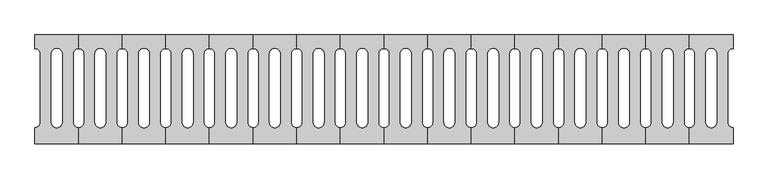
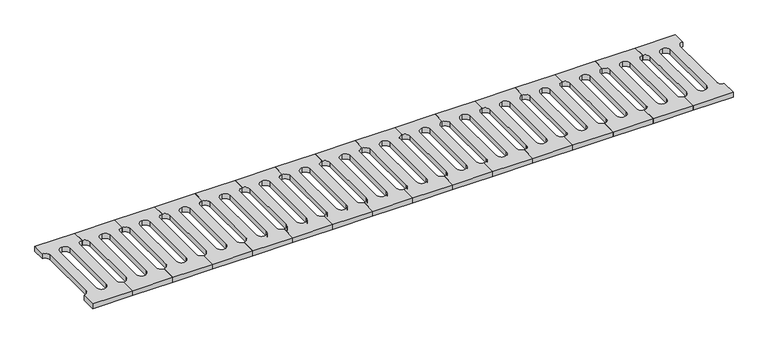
"""IFC4 building model written with IfcOpenShell, lengths in millimetres: proxy geometry, 排水沟盖板 : 排水沟盖板."""

import ifcopenshell
import ifcopenshell.guid

model = None  # the IFC model being written
_history = None  # IfcOwnerHistory: only IFC2X3 demands one
_inside = {}  # id of a spatial element -> (the spatial element, [elements in it])
_under = {}  # id of a project, library or spatial element -> (it, [spatial elements below it])
_declared = {}  # id of a project -> (the project, [libraries it declares])
_typed = {}  # id of a type object -> (the type object, [elements of that type])
_made_of = {}  # id of a material, layer set ... -> (it, [elements and type objects made of it])


def new_model(schema):
    """Start an empty IFC model of exactly this schema.

    Asked for "IFC4X3", IfcOpenShell would pick the latest addendum, in which some entities
    have other attributes; the version numbers below select the first issue.
    IFC2X3 requires an IfcOwnerHistory on every rooted entity: one is made here for all.
    """
    global model, _history
    if schema == "IFC4X3":
        model = ifcopenshell.file(schema_version=(4, 3, 0, 0))
    else:
        model = ifcopenshell.file(schema=schema)
    _inside.clear()
    _under.clear()
    _declared.clear()
    _typed.clear()
    _made_of.clear()
    _history = None
    if model.schema == "IFC2X3":
        org = make("IfcOrganization", Name="unknown")
        user = make(
            "IfcPersonAndOrganization",
            ThePerson=make("IfcPerson", FamilyName="unknown"),
            TheOrganization=org,
        )
        app = make(
            "IfcApplication",
            ApplicationDeveloper=org,
            Version="unknown",
            ApplicationFullName="unknown",
            ApplicationIdentifier="unknown",
        )
        _history = make(
            "IfcOwnerHistory",
            OwningUser=user,
            OwningApplication=app,
            ChangeAction="ADDED",
            CreationDate=0,
        )
    return model


def make(cls, **values):
    """One entity of the class cls with the attributes given. An attribute that is None is left unset."""
    return model.create_entity(
        cls, **{name: value for name, value in values.items() if value is not None}
    )


def rooted(cls, **values):
    """An entity with a GlobalId (a new one), such as an element, a storey or a relation."""
    return make(cls, GlobalId=ifcopenshell.guid.new(), OwnerHistory=_history, **values)


def si_unit(unit_type, name, prefix=None):
    """IfcSIUnit, for example si_unit("LENGTHUNIT", "METRE", prefix="MILLI")."""
    return make("IfcSIUnit", UnitType=unit_type, Prefix=prefix, Name=name)


def assignment(units):
    """IfcUnitAssignment: the units of a project."""
    return None if units is None else make("IfcUnitAssignment", Units=units)


def point(xyz):
    """IfcCartesianPoint."""
    return None if xyz is None else make("IfcCartesianPoint", Coordinates=xyz)


def direction(xyz):
    """IfcDirection."""
    return None if xyz is None else make("IfcDirection", DirectionRatios=xyz)


def frame(location, z_axis=None, x_axis=None):
    """IfcAxis2Placement3D, a coordinate frame: its origin and axes. An axis left out is left unset."""
    return make(
        "IfcAxis2Placement3D",
        Location=point(location),
        Axis=direction(z_axis),
        RefDirection=direction(x_axis),
    )


def frame_2d(location, x_axis=None):
    """IfcAxis2Placement2D, a coordinate frame in the plane: its origin and x axis."""
    return make(
        "IfcAxis2Placement2D", Location=point(location), RefDirection=direction(x_axis)
    )


def origin():
    """The frame at (0, 0, 0) with its axes left unset."""
    return frame((0.0, 0.0, 0.0))


def place(relative_to, where):
    """IfcLocalPlacement: puts the frame where relative to a parent placement (None: the world)."""
    return make(
        "IfcLocalPlacement", PlacementRelTo=relative_to, RelativePlacement=where
    )


def context(
    kind, dimensions, precision=None, world=None, true_north=None, identifier=None
):
    """IfcGeometricRepresentationContext, for example the 3D "Model" context."""
    return make(
        "IfcGeometricRepresentationContext",
        ContextIdentifier=identifier,
        ContextType=kind,
        CoordinateSpaceDimension=dimensions,
        Precision=precision,
        WorldCoordinateSystem=world,
        TrueNorth=true_north,
    )


def project(units=None, contexts=None):
    """IfcProject with its units and contexts."""
    return rooted(
        "IfcProject",
        Name="project",
        RepresentationContexts=contexts,
        UnitsInContext=assignment(units),
    )


def spatial(cls, under=None, at=None, **own):
    """A site, building, storey or space (cls), placed at a placement, below another one or the project."""
    s = rooted(cls, ObjectPlacement=at, **own)
    if under is not None:
        _under.setdefault(under.id(), (under, []))[1].append(s)
    return s


def polyline(points):
    """IfcPolyline through the points."""
    return make("IfcPolyline", Points=[point(p) for p in points])


def circle_curve(where, radius):
    """IfcCircle in the frame where."""
    return make("IfcCircle", Position=where, Radius=radius)


def trimmed(basis, trim1, trim2, sense, master):
    """IfcTrimmedCurve: the piece of a basis curve between two trims."""
    return make(
        "IfcTrimmedCurve",
        BasisCurve=basis,
        Trim1=trim1,
        Trim2=trim2,
        SenseAgreement=sense,
        MasterRepresentation=master,
    )


def segment(curve, same_sense, transition):
    """IfcCompositeCurveSegment."""
    return make(
        "IfcCompositeCurveSegment",
        Transition=transition,
        SameSense=same_sense,
        ParentCurve=curve,
    )


def composite_curve(segments, self_intersect=None):
    """IfcCompositeCurve: segments joined end to end."""
    return make("IfcCompositeCurve", Segments=segments, SelfIntersect=self_intersect)


def outline(outer, holes=None, kind="AREA"):
    """IfcArbitraryClosedProfileDef: a profile drawn as a closed curve; with holes, ...WithVoids."""
    if holes is None:
        return make("IfcArbitraryClosedProfileDef", ProfileType=kind, OuterCurve=outer)
    return make(
        "IfcArbitraryProfileDefWithVoids",
        ProfileType=kind,
        OuterCurve=outer,
        InnerCurves=holes,
    )


def extrude(swept, where, along, depth):
    """IfcExtrudedAreaSolid: the profile swept, set in the frame where, extruded along a direction by depth."""
    return make(
        "IfcExtrudedAreaSolid",
        SweptArea=swept,
        Position=where,
        ExtrudedDirection=direction(along),
        Depth=depth,
    )


def shape(context_of_items, identifier, shape_type, items):
    """IfcShapeRepresentation: the items that make up one representation, for example the "Body"."""
    return make(
        "IfcShapeRepresentation",
        ContextOfItems=context_of_items,
        RepresentationIdentifier=identifier,
        RepresentationType=shape_type,
        Items=items,
    )


def source(mapping_origin, context_of_items, identifier, shape_type, items):
    """IfcRepresentationMap: a shape defined once, which mapped items show again and again."""
    return make(
        "IfcRepresentationMap",
        MappingOrigin=mapping_origin,
        MappedRepresentation=shape(context_of_items, identifier, shape_type, items),
    )


def transform(
    local_origin,
    x_axis=None,
    y_axis=None,
    z_axis=None,
    scale=None,
    scale2=None,
    scale3=None,
    uniform=True,
):
    """IfcCartesianTransformationOperator3D, or its non-uniform kind. x_axis, y_axis, z_axis: its Axis1, 2, 3."""
    if uniform:
        return make(
            "IfcCartesianTransformationOperator3D",
            Axis1=direction(x_axis),
            Axis2=direction(y_axis),
            LocalOrigin=point(local_origin),
            Scale=scale,
            Axis3=direction(z_axis),
        )
    return make(
        "IfcCartesianTransformationOperator3DnonUniform",
        Axis1=direction(x_axis),
        Axis2=direction(y_axis),
        LocalOrigin=point(local_origin),
        Scale=scale,
        Axis3=direction(z_axis),
        Scale2=scale2,
        Scale3=scale3,
    )


def mapped(mapping_source, mapping_target):
    """IfcMappedItem: shows the shape of a source again, moved by a transform."""
    return make(
        "IfcMappedItem", MappingSource=mapping_source, MappingTarget=mapping_target
    )


def made_of(thing, what):
    """Note that an element or type object is made of a material, layer set ...; save() writes the relation."""
    if what is not None:
        _made_of.setdefault(what.id(), (what, []))[1].append(thing)
    return thing


def element(
    cls,
    number,
    at=None,
    inside=None,
    cuts=None,
    type_object=None,
    material=None,
    context=None,
    identifier="Body",
    shape_type=None,
    held_by="IfcProductDefinitionShape",
    body=None,
    shapes=None,
    **own,
):
    """One element of the class cls, such as IfcWall. Its Tag is "e" and its number.

    at: its placement. inside: the storey or other place that contains it. cuts: it is an
    opening in that element (IfcRelVoidsElement). A single representation is given by context,
    identifier, shape_type and body (its items); several are given by shapes. held_by: the class
    of the entity that holds the representations. save() writes the other relations.
    """
    e = rooted(cls, Tag="e%d" % number, ObjectPlacement=at, **own)
    if body is not None:
        shapes = [shape(context, identifier, shape_type, body)]
    if shapes is not None:
        e.Representation = make(held_by, Representations=shapes)
    if inside is not None:
        _inside.setdefault(inside.id(), (inside, []))[1].append(e)
    if cuts is not None:
        rooted(
            "IfcRelVoidsElement", RelatingBuildingElement=cuts, RelatedOpeningElement=e
        )
    if type_object is not None:
        _typed.setdefault(type_object.id(), (type_object, []))[1].append(e)
    return made_of(e, material)


def aggregate(whole, parts):
    """IfcRelAggregates: a whole, such as a stair, and the parts it consists of."""
    return rooted("IfcRelAggregates", RelatingObject=whole, RelatedObjects=parts)


def save(model, path):
    """Write the relations noted so far, then the file.

    IfcRelAggregates (storeys below a building ...), IfcRelContainedInSpatialStructure (elements
    in a storey), IfcRelDefinesByType, IfcRelAssociatesMaterial and IfcRelDeclares: one each for
    every whole, place, type object, material and project.
    """
    for whole, parts in _under.values():
        aggregate(whole, parts)
    for where, things in _inside.values():
        rooted(
            "IfcRelContainedInSpatialStructure",
            RelatedElements=things,
            RelatingStructure=where,
        )
    for kind, things in _typed.values():
        rooted("IfcRelDefinesByType", RelatedObjects=things, RelatingType=kind)
    for what, things in _made_of.values():
        rooted("IfcRelAssociatesMaterial", RelatedObjects=things, RelatingMaterial=what)
    for by, libraries in _declared.values():
        rooted("IfcRelDeclares", RelatingContext=by, RelatedDefinitions=libraries)
    model.write(path)


def generic_models_08f2e09a(model_context):
    return source(origin(), model_context, "Body", "SweptSolid", [
        extrude(outline(composite_curve([segment(polyline([(2560.0, -200.0), (2400.0, -200.0), (2400.0, -140.0)]), True, "CONTINUOUS"), segment(trimmed(circle_curve(frame_2d((2400.0, -120.0)), 20.0), [point((2400.0, -140.0))], [point((2420.0, -120.0))], True, "CARTESIAN"), True, "CONTINUOUS"), segment(polyline([(2420.0, -120.0), (2420.0, 130.0)]), True, "CONTINUOUS"), segment(trimmed(circle_curve(frame_2d((2400.0, 130.0)), 20.0), [point((2420.0, 130.0))], [point((2400.0, 150.0))], True, "CARTESIAN"), True, "CONTINUOUS"), segment(polyline([(2400.0, 150.0), (2400.0, 200.0), (2560.0, 200.0), (2560.0, 150.0)]), True, "CONTINUOUS"), segment(trimmed(circle_curve(frame_2d((2560.0, 130.0)), 20.0), [point((2560.0, 150.0))], [point((2540.0, 130.0))], True, "CARTESIAN"), True, "CONTINUOUS"), segment(polyline([(2540.0, 130.0), (2540.0, -120.0)]), True, "CONTINUOUS"), segment(trimmed(circle_curve(frame_2d((2560.0, -120.0)), 20.0), [point((2540.0, -120.0))], [point((2560.0, -140.0))], True, "CARTESIAN"), True, "CONTINUOUS"), segment(polyline([(2560.0, -140.0), (2560.0, -200.0)]), True, "CONTINUOUS")], self_intersect=False), holes=[composite_curve([segment(polyline([(2460.0, 130.0), (2460.0, -120.0)]), True, "CONTINUOUS"), segment(trimmed(circle_curve(frame_2d((2480.0, -120.0)), 20.0), [point((2460.0, -120.0))], [point((2480.0, -140.0))], True, "CARTESIAN"), True, "CONTINUOUS"), segment(trimmed(circle_curve(frame_2d((2480.0, -120.0)), 20.0), [point((2480.0, -140.0))], [point((2500.0, -120.0))], True, "CARTESIAN"), True, "CONTINUOUS"), segment(polyline([(2500.0, -120.0), (2500.0, 130.0)]), True, "CONTINUOUS"), segment(trimmed(circle_curve(frame_2d((2480.0, 130.0)), 20.0), [point((2500.0, 130.0))], [point((2480.0, 150.0))], True, "CARTESIAN"), True, "CONTINUOUS"), segment(trimmed(circle_curve(frame_2d((2480.0, 130.0)), 20.0), [point((2480.0, 150.0))], [point((2460.0, 130.0))], True, "CARTESIAN"), True, "CONTINUOUS")], self_intersect=False)]), frame((0.0, 0.0, -20.0), z_axis=(0.0, 0.0, 1.0), x_axis=(1.0, 0.0, 0.0)), (0.0, 0.0, 1.0), 20.0),
        extrude(outline(composite_curve([segment(polyline([(2400.0, -200.0), (2240.0, -200.0), (2240.0, -140.0)]), True, "CONTINUOUS"), segment(trimmed(circle_curve(frame_2d((2240.0, -120.0)), 20.0), [point((2240.0, -140.0))], [point((2260.0, -120.0))], True, "CARTESIAN"), True, "CONTINUOUS"), segment(polyline([(2260.0, -120.0), (2260.0, 130.0)]), True, "CONTINUOUS"), segment(trimmed(circle_curve(frame_2d((2240.0, 130.0)), 20.0), [point((2260.0, 130.0))], [point((2240.0, 150.0))], True, "CARTESIAN"), True, "CONTINUOUS"), segment(polyline([(2240.0, 150.0), (2240.0, 200.0), (2400.0, 200.0), (2400.0, 150.0)]), True, "CONTINUOUS"), segment(trimmed(circle_curve(frame_2d((2400.0, 130.0)), 20.0), [point((2400.0, 150.0))], [point((2380.0, 130.0))], True, "CARTESIAN"), True, "CONTINUOUS"), segment(polyline([(2380.0, 130.0), (2380.0, -120.0)]), True, "CONTINUOUS"), segment(trimmed(circle_curve(frame_2d((2400.0, -120.0)), 20.0), [point((2380.0, -120.0))], [point((2400.0, -140.0))], True, "CARTESIAN"), True, "CONTINUOUS"), segment(polyline([(2400.0, -140.0), (2400.0, -200.0)]), True, "CONTINUOUS")], self_intersect=False), holes=[composite_curve([segment(polyline([(2300.0, 130.0), (2300.0, -120.0)]), True, "CONTINUOUS"), segment(trimmed(circle_curve(frame_2d((2320.0, -120.0)), 20.0), [point((2300.0, -120.0))], [point((2320.0, -140.0))], True, "CARTESIAN"), True, "CONTINUOUS"), segment(trimmed(circle_curve(frame_2d((2320.0, -120.0)), 20.0), [point((2320.0, -140.0))], [point((2340.0, -120.0))], True, "CARTESIAN"), True, "CONTINUOUS"), segment(polyline([(2340.0, -120.0), (2340.0, 130.0)]), True, "CONTINUOUS"), segment(trimmed(circle_curve(frame_2d((2320.0, 130.0)), 20.0), [point((2340.0, 130.0))], [point((2320.0, 150.0))], True, "CARTESIAN"), True, "CONTINUOUS"), segment(trimmed(circle_curve(frame_2d((2320.0, 130.0)), 20.0), [point((2320.0, 150.0))], [point((2300.0, 130.0))], True, "CARTESIAN"), True, "CONTINUOUS")], self_intersect=False)]), frame((0.0, 0.0, -20.0), z_axis=(0.0, 0.0, 1.0), x_axis=(1.0, 0.0, 0.0)), (0.0, 0.0, 1.0), 20.0),
        extrude(outline(composite_curve([segment(polyline([(2240.0, -200.0), (2080.0, -200.0), (2080.0, -140.0)]), True, "CONTINUOUS"), segment(trimmed(circle_curve(frame_2d((2080.0, -120.0)), 20.0), [point((2080.0, -140.0))], [point((2100.0, -120.0))], True, "CARTESIAN"), True, "CONTINUOUS"), segment(polyline([(2100.0, -120.0), (2100.0, 130.0)]), True, "CONTINUOUS"), segment(trimmed(circle_curve(frame_2d((2080.0, 130.0)), 20.0), [point((2100.0, 130.0))], [point((2080.0, 150.0))], True, "CARTESIAN"), True, "CONTINUOUS"), segment(polyline([(2080.0, 150.0), (2080.0, 200.0), (2240.0, 200.0), (2240.0, 150.0)]), True, "CONTINUOUS"), segment(trimmed(circle_curve(frame_2d((2240.0, 130.0)), 20.0), [point((2240.0, 150.0))], [point((2220.0, 130.0))], True, "CARTESIAN"), True, "CONTINUOUS"), segment(polyline([(2220.0, 130.0), (2220.0, -120.0)]), True, "CONTINUOUS"), segment(trimmed(circle_curve(frame_2d((2240.0, -120.0)), 20.0), [point((2220.0, -120.0))], [point((2240.0, -140.0))], True, "CARTESIAN"), True, "CONTINUOUS"), segment(polyline([(2240.0, -140.0), (2240.0, -200.0)]), True, "CONTINUOUS")], self_intersect=False), holes=[composite_curve([segment(polyline([(2140.0, 130.0), (2140.0, -120.0)]), True, "CONTINUOUS"), segment(trimmed(circle_curve(frame_2d((2160.0, -120.0)), 20.0), [point((2140.0, -120.0))], [point((2160.0, -140.0))], True, "CARTESIAN"), True, "CONTINUOUS"), segment(trimmed(circle_curve(frame_2d((2160.0, -120.0)), 20.0), [point((2160.0, -140.0))], [point((2180.0, -120.0))], True, "CARTESIAN"), True, "CONTINUOUS"), segment(polyline([(2180.0, -120.0), (2180.0, 130.0)]), True, "CONTINUOUS"), segment(trimmed(circle_curve(frame_2d((2160.0, 130.0)), 20.0), [point((2180.0, 130.0))], [point((2160.0, 150.0))], True, "CARTESIAN"), True, "CONTINUOUS"), segment(trimmed(circle_curve(frame_2d((2160.0, 130.0)), 20.0), [point((2160.0, 150.0))], [point((2140.0, 130.0))], True, "CARTESIAN"), True, "CONTINUOUS")], self_intersect=False)]), frame((0.0, 0.0, -20.0), z_axis=(0.0, 0.0, 1.0), x_axis=(1.0, 0.0, 0.0)), (0.0, 0.0, 1.0), 20.0),
        extrude(outline(composite_curve([segment(polyline([(2080.0, -200.0), (1920.0, -200.0), (1920.0, -140.0)]), True, "CONTINUOUS"), segment(trimmed(circle_curve(frame_2d((1920.0, -120.0)), 20.0), [point((1920.0, -140.0))], [point((1940.0, -120.0))], True, "CARTESIAN"), True, "CONTINUOUS"), segment(polyline([(1940.0, -120.0), (1940.0, 130.0)]), True, "CONTINUOUS"), segment(trimmed(circle_curve(frame_2d((1920.0, 130.0)), 20.0), [point((1940.0, 130.0))], [point((1920.0, 150.0))], True, "CARTESIAN"), True, "CONTINUOUS"), segment(polyline([(1920.0, 150.0), (1920.0, 200.0), (2080.0, 200.0), (2080.0, 150.0)]), True, "CONTINUOUS"), segment(trimmed(circle_curve(frame_2d((2080.0, 130.0)), 20.0), [point((2080.0, 150.0))], [point((2060.0, 130.0))], True, "CARTESIAN"), True, "CONTINUOUS"), segment(polyline([(2060.0, 130.0), (2060.0, -120.0)]), True, "CONTINUOUS"), segment(trimmed(circle_curve(frame_2d((2080.0, -120.0)), 20.0), [point((2060.0, -120.0))], [point((2080.0, -140.0))], True, "CARTESIAN"), True, "CONTINUOUS"), segment(polyline([(2080.0, -140.0), (2080.0, -200.0)]), True, "CONTINUOUS")], self_intersect=False), holes=[composite_curve([segment(polyline([(1980.0, 130.0), (1980.0, -120.0)]), True, "CONTINUOUS"), segment(trimmed(circle_curve(frame_2d((2000.0, -120.0)), 20.0), [point((1980.0, -120.0))], [point((2000.0, -140.0))], True, "CARTESIAN"), True, "CONTINUOUS"), segment(trimmed(circle_curve(frame_2d((2000.0, -120.0)), 20.0), [point((2000.0, -140.0))], [point((2020.0, -120.0))], True, "CARTESIAN"), True, "CONTINUOUS"), segment(polyline([(2020.0, -120.0), (2020.0, 130.0)]), True, "CONTINUOUS"), segment(trimmed(circle_curve(frame_2d((2000.0, 130.0)), 20.0), [point((2020.0, 130.0))], [point((2000.0, 150.0))], True, "CARTESIAN"), True, "CONTINUOUS"), segment(trimmed(circle_curve(frame_2d((2000.0, 130.0)), 20.0), [point((2000.0, 150.0))], [point((1980.0, 130.0))], True, "CARTESIAN"), True, "CONTINUOUS")], self_intersect=False)]), frame((0.0, 0.0, -20.0), z_axis=(0.0, 0.0, 1.0), x_axis=(1.0, 0.0, 0.0)), (0.0, 0.0, 1.0), 20.0),
        extrude(outline(composite_curve([segment(polyline([(1920.0, -200.0), (1760.0, -200.0), (1760.0, -140.0)]), True, "CONTINUOUS"), segment(trimmed(circle_curve(frame_2d((1760.0, -120.0)), 20.0), [point((1760.0, -140.0))], [point((1780.0, -120.0))], True, "CARTESIAN"), True, "CONTINUOUS"), segment(polyline([(1780.0, -120.0), (1780.0, 130.0)]), True, "CONTINUOUS"), segment(trimmed(circle_curve(frame_2d((1760.0, 130.0)), 20.0), [point((1780.0, 130.0))], [point((1760.0, 150.0))], True, "CARTESIAN"), True, "CONTINUOUS"), segment(polyline([(1760.0, 150.0), (1760.0, 200.0), (1920.0, 200.0), (1920.0, 150.0)]), True, "CONTINUOUS"), segment(trimmed(circle_curve(frame_2d((1920.0, 130.0)), 20.0), [point((1920.0, 150.0))], [point((1900.0, 130.0))], True, "CARTESIAN"), True, "CONTINUOUS"), segment(polyline([(1900.0, 130.0), (1900.0, -120.0)]), True, "CONTINUOUS"), segment(trimmed(circle_curve(frame_2d((1920.0, -120.0)), 20.0), [point((1900.0, -120.0))], [point((1920.0, -140.0))], True, "CARTESIAN"), True, "CONTINUOUS"), segment(polyline([(1920.0, -140.0), (1920.0, -200.0)]), True, "CONTINUOUS")], self_intersect=False), holes=[composite_curve([segment(polyline([(1820.0, 130.0), (1820.0, -120.0)]), True, "CONTINUOUS"), segment(trimmed(circle_curve(frame_2d((1840.0, -120.0)), 20.0), [point((1820.0, -120.0))], [point((1840.0, -140.0))], True, "CARTESIAN"), True, "CONTINUOUS"), segment(trimmed(circle_curve(frame_2d((1840.0, -120.0)), 20.0), [point((1840.0, -140.0))], [point((1860.0, -120.0))], True, "CARTESIAN"), True, "CONTINUOUS"), segment(polyline([(1860.0, -120.0), (1860.0, 130.0)]), True, "CONTINUOUS"), segment(trimmed(circle_curve(frame_2d((1840.0, 130.0)), 20.0), [point((1860.0, 130.0))], [point((1840.0, 150.0))], True, "CARTESIAN"), True, "CONTINUOUS"), segment(trimmed(circle_curve(frame_2d((1840.0, 130.0)), 20.0), [point((1840.0, 150.0))], [point((1820.0, 130.0))], True, "CARTESIAN"), True, "CONTINUOUS")], self_intersect=False)]), frame((0.0, 0.0, -20.0), z_axis=(0.0, 0.0, 1.0), x_axis=(1.0, 0.0, 0.0)), (0.0, 0.0, 1.0), 20.0),
        extrude(outline(composite_curve([segment(polyline([(1760.0, -200.0), (1600.0, -200.0), (1600.0, -140.0)]), True, "CONTINUOUS"), segment(trimmed(circle_curve(frame_2d((1600.0, -120.0)), 20.0), [point((1600.0, -140.0))], [point((1620.0, -120.0))], True, "CARTESIAN"), True, "CONTINUOUS"), segment(polyline([(1620.0, -120.0), (1620.0, 130.0)]), True, "CONTINUOUS"), segment(trimmed(circle_curve(frame_2d((1600.0, 130.0)), 20.0), [point((1620.0, 130.0))], [point((1600.0, 150.0))], True, "CARTESIAN"), True, "CONTINUOUS"), segment(polyline([(1600.0, 150.0), (1600.0, 200.0), (1760.0, 200.0), (1760.0, 150.0)]), True, "CONTINUOUS"), segment(trimmed(circle_curve(frame_2d((1760.0, 130.0)), 20.0), [point((1760.0, 150.0))], [point((1740.0, 130.0))], True, "CARTESIAN"), True, "CONTINUOUS"), segment(polyline([(1740.0, 130.0), (1740.0, -120.0)]), True, "CONTINUOUS"), segment(trimmed(circle_curve(frame_2d((1760.0, -120.0)), 20.0), [point((1740.0, -120.0))], [point((1760.0, -140.0))], True, "CARTESIAN"), True, "CONTINUOUS"), segment(polyline([(1760.0, -140.0), (1760.0, -200.0)]), True, "CONTINUOUS")], self_intersect=False), holes=[composite_curve([segment(polyline([(1660.0, 130.0), (1660.0, -120.0)]), True, "CONTINUOUS"), segment(trimmed(circle_curve(frame_2d((1680.0, -120.0)), 20.0), [point((1660.0, -120.0))], [point((1680.0, -140.0))], True, "CARTESIAN"), True, "CONTINUOUS"), segment(trimmed(circle_curve(frame_2d((1680.0, -120.0)), 20.0), [point((1680.0, -140.0))], [point((1700.0, -120.0))], True, "CARTESIAN"), True, "CONTINUOUS"), segment(polyline([(1700.0, -120.0), (1700.0, 130.0)]), True, "CONTINUOUS"), segment(trimmed(circle_curve(frame_2d((1680.0, 130.0)), 20.0), [point((1700.0, 130.0))], [point((1680.0, 150.0))], True, "CARTESIAN"), True, "CONTINUOUS"), segment(trimmed(circle_curve(frame_2d((1680.0, 130.0)), 20.0), [point((1680.0, 150.0))], [point((1660.0, 130.0))], True, "CARTESIAN"), True, "CONTINUOUS")], self_intersect=False)]), frame((0.0, 0.0, -20.0), z_axis=(0.0, 0.0, 1.0), x_axis=(1.0, 0.0, 0.0)), (0.0, 0.0, 1.0), 20.0),
        extrude(outline(composite_curve([segment(polyline([(1600.0, -200.0), (1440.0, -200.0), (1440.0, -140.0)]), True, "CONTINUOUS"), segment(trimmed(circle_curve(frame_2d((1440.0, -120.0)), 20.0), [point((1440.0, -140.0))], [point((1460.0, -120.0))], True, "CARTESIAN"), True, "CONTINUOUS"), segment(polyline([(1460.0, -120.0), (1460.0, 130.0)]), True, "CONTINUOUS"), segment(trimmed(circle_curve(frame_2d((1440.0, 130.0)), 20.0), [point((1460.0, 130.0))], [point((1440.0, 150.0))], True, "CARTESIAN"), True, "CONTINUOUS"), segment(polyline([(1440.0, 150.0), (1440.0, 200.0), (1600.0, 200.0), (1600.0, 150.0)]), True, "CONTINUOUS"), segment(trimmed(circle_curve(frame_2d((1600.0, 130.0)), 20.0), [point((1600.0, 150.0))], [point((1580.0, 130.0))], True, "CARTESIAN"), True, "CONTINUOUS"), segment(polyline([(1580.0, 130.0), (1580.0, -120.0)]), True, "CONTINUOUS"), segment(trimmed(circle_curve(frame_2d((1600.0, -120.0)), 20.0), [point((1580.0, -120.0))], [point((1600.0, -140.0))], True, "CARTESIAN"), True, "CONTINUOUS"), segment(polyline([(1600.0, -140.0), (1600.0, -200.0)]), True, "CONTINUOUS")], self_intersect=False), holes=[composite_curve([segment(polyline([(1500.0, 130.0), (1500.0, -120.0)]), True, "CONTINUOUS"), segment(trimmed(circle_curve(frame_2d((1520.0, -120.0)), 20.0), [point((1500.0, -120.0))], [point((1520.0, -140.0))], True, "CARTESIAN"), True, "CONTINUOUS"), segment(trimmed(circle_curve(frame_2d((1520.0, -120.0)), 20.0), [point((1520.0, -140.0))], [point((1540.0, -120.0))], True, "CARTESIAN"), True, "CONTINUOUS"), segment(polyline([(1540.0, -120.0), (1540.0, 130.0)]), True, "CONTINUOUS"), segment(trimmed(circle_curve(frame_2d((1520.0, 130.0)), 20.0), [point((1540.0, 130.0))], [point((1520.0, 150.0))], True, "CARTESIAN"), True, "CONTINUOUS"), segment(trimmed(circle_curve(frame_2d((1520.0, 130.0)), 20.0), [point((1520.0, 150.0))], [point((1500.0, 130.0))], True, "CARTESIAN"), True, "CONTINUOUS")], self_intersect=False)]), frame((0.0, 0.0, -20.0), z_axis=(0.0, 0.0, 1.0), x_axis=(1.0, 0.0, 0.0)), (0.0, 0.0, 1.0), 20.0),
        extrude(outline(composite_curve([segment(polyline([(1440.0, -200.0), (1280.0, -200.0), (1280.0, -140.0)]), True, "CONTINUOUS"), segment(trimmed(circle_curve(frame_2d((1280.0, -120.0)), 20.0), [point((1280.0, -140.0))], [point((1300.0, -120.0))], True, "CARTESIAN"), True, "CONTINUOUS"), segment(polyline([(1300.0, -120.0), (1300.0, 130.0)]), True, "CONTINUOUS"), segment(trimmed(circle_curve(frame_2d((1280.0, 130.0)), 20.0), [point((1300.0, 130.0))], [point((1280.0, 150.0))], True, "CARTESIAN"), True, "CONTINUOUS"), segment(polyline([(1280.0, 150.0), (1280.0, 200.0), (1440.0, 200.0), (1440.0, 150.0)]), True, "CONTINUOUS"), segment(trimmed(circle_curve(frame_2d((1440.0, 130.0)), 20.0), [point((1440.0, 150.0))], [point((1420.0, 130.0))], True, "CARTESIAN"), True, "CONTINUOUS"), segment(polyline([(1420.0, 130.0), (1420.0, -120.0)]), True, "CONTINUOUS"), segment(trimmed(circle_curve(frame_2d((1440.0, -120.0)), 20.0), [point((1420.0, -120.0))], [point((1440.0, -140.0))], True, "CARTESIAN"), True, "CONTINUOUS"), segment(polyline([(1440.0, -140.0), (1440.0, -200.0)]), True, "CONTINUOUS")], self_intersect=False), holes=[composite_curve([segment(polyline([(1340.0, 130.0), (1340.0, -120.0)]), True, "CONTINUOUS"), segment(trimmed(circle_curve(frame_2d((1360.0, -120.0)), 20.0), [point((1340.0, -120.0))], [point((1360.0, -140.0))], True, "CARTESIAN"), True, "CONTINUOUS"), segment(trimmed(circle_curve(frame_2d((1360.0, -120.0)), 20.0), [point((1360.0, -140.0))], [point((1380.0, -120.0))], True, "CARTESIAN"), True, "CONTINUOUS"), segment(polyline([(1380.0, -120.0), (1380.0, 130.0)]), True, "CONTINUOUS"), segment(trimmed(circle_curve(frame_2d((1360.0, 130.0)), 20.0), [point((1380.0, 130.0))], [point((1360.0, 150.0))], True, "CARTESIAN"), True, "CONTINUOUS"), segment(trimmed(circle_curve(frame_2d((1360.0, 130.0)), 20.0), [point((1360.0, 150.0))], [point((1340.0, 130.0))], True, "CARTESIAN"), True, "CONTINUOUS")], self_intersect=False)]), frame((0.0, 0.0, -20.0), z_axis=(0.0, 0.0, 1.0), x_axis=(1.0, 0.0, 0.0)), (0.0, 0.0, 1.0), 20.0),
        extrude(outline(composite_curve([segment(polyline([(1280.0, -200.0), (1120.0, -200.0), (1120.0, -140.0)]), True, "CONTINUOUS"), segment(trimmed(circle_curve(frame_2d((1120.0, -120.0)), 20.0), [point((1120.0, -140.0))], [point((1140.0, -120.0))], True, "CARTESIAN"), True, "CONTINUOUS"), segment(polyline([(1140.0, -120.0), (1140.0, 130.0)]), True, "CONTINUOUS"), segment(trimmed(circle_curve(frame_2d((1120.0, 130.0)), 20.0), [point((1140.0, 130.0))], [point((1120.0, 150.0))], True, "CARTESIAN"), True, "CONTINUOUS"), segment(polyline([(1120.0, 150.0), (1120.0, 200.0), (1280.0, 200.0), (1280.0, 150.0)]), True, "CONTINUOUS"), segment(trimmed(circle_curve(frame_2d((1280.0, 130.0)), 20.0), [point((1280.0, 150.0))], [point((1260.0, 130.0))], True, "CARTESIAN"), True, "CONTINUOUS"), segment(polyline([(1260.0, 130.0), (1260.0, -120.0)]), True, "CONTINUOUS"), segment(trimmed(circle_curve(frame_2d((1280.0, -120.0)), 20.0), [point((1260.0, -120.0))], [point((1280.0, -140.0))], True, "CARTESIAN"), True, "CONTINUOUS"), segment(polyline([(1280.0, -140.0), (1280.0, -200.0)]), True, "CONTINUOUS")], self_intersect=False), holes=[composite_curve([segment(polyline([(1180.0, 130.0), (1180.0, -120.0)]), True, "CONTINUOUS"), segment(trimmed(circle_curve(frame_2d((1200.0, -120.0)), 20.0), [point((1180.0, -120.0))], [point((1200.0, -140.0))], True, "CARTESIAN"), True, "CONTINUOUS"), segment(trimmed(circle_curve(frame_2d((1200.0, -120.0)), 20.0), [point((1200.0, -140.0))], [point((1220.0, -120.0))], True, "CARTESIAN"), True, "CONTINUOUS"), segment(polyline([(1220.0, -120.0), (1220.0, 130.0)]), True, "CONTINUOUS"), segment(trimmed(circle_curve(frame_2d((1200.0, 130.0)), 20.0), [point((1220.0, 130.0))], [point((1200.0, 150.0))], True, "CARTESIAN"), True, "CONTINUOUS"), segment(trimmed(circle_curve(frame_2d((1200.0, 130.0)), 20.0), [point((1200.0, 150.0))], [point((1180.0, 130.0))], True, "CARTESIAN"), True, "CONTINUOUS")], self_intersect=False)]), frame((0.0, 0.0, -20.0), z_axis=(0.0, 0.0, 1.0), x_axis=(1.0, 0.0, 0.0)), (0.0, 0.0, 1.0), 20.0),
        extrude(outline(composite_curve([segment(polyline([(1120.0, -200.0), (960.0, -200.0), (960.0, -140.0)]), True, "CONTINUOUS"), segment(trimmed(circle_curve(frame_2d((960.0, -120.0)), 20.0), [point((960.0, -140.0))], [point((980.0, -120.0))], True, "CARTESIAN"), True, "CONTINUOUS"), segment(polyline([(980.0, -120.0), (980.0, 130.0)]), True, "CONTINUOUS"), segment(trimmed(circle_curve(frame_2d((960.0, 130.0)), 20.0), [point((980.0, 130.0))], [point((960.0, 150.0))], True, "CARTESIAN"), True, "CONTINUOUS"), segment(polyline([(960.0, 150.0), (960.0, 200.0), (1120.0, 200.0), (1120.0, 150.0)]), True, "CONTINUOUS"), segment(trimmed(circle_curve(frame_2d((1120.0, 130.0)), 20.0), [point((1120.0, 150.0))], [point((1100.0, 130.0))], True, "CARTESIAN"), True, "CONTINUOUS"), segment(polyline([(1100.0, 130.0), (1100.0, -120.0)]), True, "CONTINUOUS"), segment(trimmed(circle_curve(frame_2d((1120.0, -120.0)), 20.0), [point((1100.0, -120.0))], [point((1120.0, -140.0))], True, "CARTESIAN"), True, "CONTINUOUS"), segment(polyline([(1120.0, -140.0), (1120.0, -200.0)]), True, "CONTINUOUS")], self_intersect=False), holes=[composite_curve([segment(polyline([(1020.0, 130.0), (1020.0, -120.0)]), True, "CONTINUOUS"), segment(trimmed(circle_curve(frame_2d((1040.0, -120.0)), 20.0), [point((1020.0, -120.0))], [point((1040.0, -140.0))], True, "CARTESIAN"), True, "CONTINUOUS"), segment(trimmed(circle_curve(frame_2d((1040.0, -120.0)), 20.0), [point((1040.0, -140.0))], [point((1060.0, -120.0))], True, "CARTESIAN"), True, "CONTINUOUS"), segment(polyline([(1060.0, -120.0), (1060.0, 130.0)]), True, "CONTINUOUS"), segment(trimmed(circle_curve(frame_2d((1040.0, 130.0)), 20.0), [point((1060.0, 130.0))], [point((1040.0, 150.0))], True, "CARTESIAN"), True, "CONTINUOUS"), segment(trimmed(circle_curve(frame_2d((1040.0, 130.0)), 20.0), [point((1040.0, 150.0))], [point((1020.0, 130.0))], True, "CARTESIAN"), True, "CONTINUOUS")], self_intersect=False)]), frame((0.0, 0.0, -20.0), z_axis=(0.0, 0.0, 1.0), x_axis=(1.0, 0.0, 0.0)), (0.0, 0.0, 1.0), 20.0),
        extrude(outline(composite_curve([segment(polyline([(960.0, -200.0), (800.0, -200.0), (800.0, -140.0)]), True, "CONTINUOUS"), segment(trimmed(circle_curve(frame_2d((800.0, -120.0)), 20.0), [point((800.0, -140.0))], [point((820.0, -120.0))], True, "CARTESIAN"), True, "CONTINUOUS"), segment(polyline([(820.0, -120.0), (820.0, 130.0)]), True, "CONTINUOUS"), segment(trimmed(circle_curve(frame_2d((800.0, 130.0)), 20.0), [point((820.0, 130.0))], [point((800.0, 150.0))], True, "CARTESIAN"), True, "CONTINUOUS"), segment(polyline([(800.0, 150.0), (800.0, 200.0), (960.0, 200.0), (960.0, 150.0)]), True, "CONTINUOUS"), segment(trimmed(circle_curve(frame_2d((960.0, 130.0)), 20.0), [point((960.0, 150.0))], [point((940.0, 130.0))], True, "CARTESIAN"), True, "CONTINUOUS"), segment(polyline([(940.0, 130.0), (940.0, -120.0)]), True, "CONTINUOUS"), segment(trimmed(circle_curve(frame_2d((960.0, -120.0)), 20.0), [point((940.0, -120.0))], [point((960.0, -140.0))], True, "CARTESIAN"), True, "CONTINUOUS"), segment(polyline([(960.0, -140.0), (960.0, -200.0)]), True, "CONTINUOUS")], self_intersect=False), holes=[composite_curve([segment(polyline([(860.0, 130.0), (860.0, -120.0)]), True, "CONTINUOUS"), segment(trimmed(circle_curve(frame_2d((880.0, -120.0)), 20.0), [point((860.0, -120.0))], [point((880.0, -140.0))], True, "CARTESIAN"), True, "CONTINUOUS"), segment(trimmed(circle_curve(frame_2d((880.0, -120.0)), 20.0), [point((880.0, -140.0))], [point((900.0, -120.0))], True, "CARTESIAN"), True, "CONTINUOUS"), segment(polyline([(900.0, -120.0), (900.0, 130.0)]), True, "CONTINUOUS"), segment(trimmed(circle_curve(frame_2d((880.0, 130.0)), 20.0), [point((900.0, 130.0))], [point((880.0, 150.0))], True, "CARTESIAN"), True, "CONTINUOUS"), segment(trimmed(circle_curve(frame_2d((880.0, 130.0)), 20.0), [point((880.0, 150.0))], [point((860.0, 130.0))], True, "CARTESIAN"), True, "CONTINUOUS")], self_intersect=False)]), frame((0.0, 0.0, -20.0), z_axis=(0.0, 0.0, 1.0), x_axis=(1.0, 0.0, 0.0)), (0.0, 0.0, 1.0), 20.0),
        extrude(outline(composite_curve([segment(polyline([(800.0, -200.0), (640.0, -200.0), (640.0, -140.0)]), True, "CONTINUOUS"), segment(trimmed(circle_curve(frame_2d((640.0, -120.0)), 20.0), [point((640.0, -140.0))], [point((660.0, -120.0))], True, "CARTESIAN"), True, "CONTINUOUS"), segment(polyline([(660.0, -120.0), (660.0, 130.0)]), True, "CONTINUOUS"), segment(trimmed(circle_curve(frame_2d((640.0, 130.0)), 20.0), [point((660.0, 130.0))], [point((640.0, 150.0))], True, "CARTESIAN"), True, "CONTINUOUS"), segment(polyline([(640.0, 150.0), (640.0, 200.0), (800.0, 200.0), (800.0, 150.0)]), True, "CONTINUOUS"), segment(trimmed(circle_curve(frame_2d((800.0, 130.0)), 20.0), [point((800.0, 150.0))], [point((780.0, 130.0))], True, "CARTESIAN"), True, "CONTINUOUS"), segment(polyline([(780.0, 130.0), (780.0, -120.0)]), True, "CONTINUOUS"), segment(trimmed(circle_curve(frame_2d((800.0, -120.0)), 20.0), [point((780.0, -120.0))], [point((800.0, -140.0))], True, "CARTESIAN"), True, "CONTINUOUS"), segment(polyline([(800.0, -140.0), (800.0, -200.0)]), True, "CONTINUOUS")], self_intersect=False), holes=[composite_curve([segment(polyline([(700.0, 130.0), (700.0, -120.0)]), True, "CONTINUOUS"), segment(trimmed(circle_curve(frame_2d((720.0, -120.0)), 20.0), [point((700.0, -120.0))], [point((720.0, -140.0))], True, "CARTESIAN"), True, "CONTINUOUS"), segment(trimmed(circle_curve(frame_2d((720.0, -120.0)), 20.0), [point((720.0, -140.0))], [point((740.0, -120.0))], True, "CARTESIAN"), True, "CONTINUOUS"), segment(polyline([(740.0, -120.0), (740.0, 130.0)]), True, "CONTINUOUS"), segment(trimmed(circle_curve(frame_2d((720.0, 130.0)), 20.0), [point((740.0, 130.0))], [point((720.0, 150.0))], True, "CARTESIAN"), True, "CONTINUOUS"), segment(trimmed(circle_curve(frame_2d((720.0, 130.0)), 20.0), [point((720.0, 150.0))], [point((700.0, 130.0))], True, "CARTESIAN"), True, "CONTINUOUS")], self_intersect=False)]), frame((0.0, 0.0, -20.0), z_axis=(0.0, 0.0, 1.0), x_axis=(1.0, 0.0, 0.0)), (0.0, 0.0, 1.0), 20.0),
        extrude(outline(composite_curve([segment(polyline([(640.0, -200.0), (480.0, -200.0), (480.0, -140.0)]), True, "CONTINUOUS"), segment(trimmed(circle_curve(frame_2d((480.0, -120.0)), 20.0), [point((480.0, -140.0))], [point((500.0, -120.0))], True, "CARTESIAN"), True, "CONTINUOUS"), segment(polyline([(500.0, -120.0), (500.0, 130.0)]), True, "CONTINUOUS"), segment(trimmed(circle_curve(frame_2d((480.0, 130.0)), 20.0), [point((500.0, 130.0))], [point((480.0, 150.0))], True, "CARTESIAN"), True, "CONTINUOUS"), segment(polyline([(480.0, 150.0), (480.0, 200.0), (640.0, 200.0), (640.0, 150.0)]), True, "CONTINUOUS"), segment(trimmed(circle_curve(frame_2d((640.0, 130.0)), 20.0), [point((640.0, 150.0))], [point((620.0, 130.0))], True, "CARTESIAN"), True, "CONTINUOUS"), segment(polyline([(620.0, 130.0), (620.0, -120.0)]), True, "CONTINUOUS"), segment(trimmed(circle_curve(frame_2d((640.0, -120.0)), 20.0), [point((620.0, -120.0))], [point((640.0, -140.0))], True, "CARTESIAN"), True, "CONTINUOUS"), segment(polyline([(640.0, -140.0), (640.0, -200.0)]), True, "CONTINUOUS")], self_intersect=False), holes=[composite_curve([segment(polyline([(540.0, 130.0), (540.0, -120.0)]), True, "CONTINUOUS"), segment(trimmed(circle_curve(frame_2d((560.0, -120.0)), 20.0), [point((540.0, -120.0))], [point((560.0, -140.0))], True, "CARTESIAN"), True, "CONTINUOUS"), segment(trimmed(circle_curve(frame_2d((560.0, -120.0)), 20.0), [point((560.0, -140.0))], [point((580.0, -120.0))], True, "CARTESIAN"), True, "CONTINUOUS"), segment(polyline([(580.0, -120.0), (580.0, 130.0)]), True, "CONTINUOUS"), segment(trimmed(circle_curve(frame_2d((560.0, 130.0)), 20.0), [point((580.0, 130.0))], [point((560.0, 150.0))], True, "CARTESIAN"), True, "CONTINUOUS"), segment(trimmed(circle_curve(frame_2d((560.0, 130.0)), 20.0), [point((560.0, 150.0))], [point((540.0, 130.0))], True, "CARTESIAN"), True, "CONTINUOUS")], self_intersect=False)]), frame((0.0, 0.0, -20.0), z_axis=(0.0, 0.0, 1.0), x_axis=(1.0, 0.0, 0.0)), (0.0, 0.0, 1.0), 20.0),
        extrude(outline(composite_curve([segment(polyline([(480.0, -200.0), (320.0, -200.0), (320.0, -140.0)]), True, "CONTINUOUS"), segment(trimmed(circle_curve(frame_2d((320.0, -120.0)), 20.0), [point((320.0, -140.0))], [point((340.0, -120.0))], True, "CARTESIAN"), True, "CONTINUOUS"), segment(polyline([(340.0, -120.0), (340.0, 130.0)]), True, "CONTINUOUS"), segment(trimmed(circle_curve(frame_2d((320.0, 130.0)), 20.0), [point((340.0, 130.0))], [point((320.0, 150.0))], True, "CARTESIAN"), True, "CONTINUOUS"), segment(polyline([(320.0, 150.0), (320.0, 200.0), (480.0, 200.0), (480.0, 150.0)]), True, "CONTINUOUS"), segment(trimmed(circle_curve(frame_2d((480.0, 130.0)), 20.0), [point((480.0, 150.0))], [point((460.0, 130.0))], True, "CARTESIAN"), True, "CONTINUOUS"), segment(polyline([(460.0, 130.0), (460.0, -120.0)]), True, "CONTINUOUS"), segment(trimmed(circle_curve(frame_2d((480.0, -120.0)), 20.0), [point((460.0, -120.0))], [point((480.0, -140.0))], True, "CARTESIAN"), True, "CONTINUOUS"), segment(polyline([(480.0, -140.0), (480.0, -200.0)]), True, "CONTINUOUS")], self_intersect=False), holes=[composite_curve([segment(polyline([(380.0, 130.0), (380.0, -120.0)]), True, "CONTINUOUS"), segment(trimmed(circle_curve(frame_2d((400.0, -120.0)), 20.0), [point((380.0, -120.0))], [point((400.0, -140.0))], True, "CARTESIAN"), True, "CONTINUOUS"), segment(trimmed(circle_curve(frame_2d((400.0, -120.0)), 20.0), [point((400.0, -140.0))], [point((420.0, -120.0))], True, "CARTESIAN"), True, "CONTINUOUS"), segment(polyline([(420.0, -120.0), (420.0, 130.0)]), True, "CONTINUOUS"), segment(trimmed(circle_curve(frame_2d((400.0, 130.0)), 20.0), [point((420.0, 130.0))], [point((400.0, 150.0))], True, "CARTESIAN"), True, "CONTINUOUS"), segment(trimmed(circle_curve(frame_2d((400.0, 130.0)), 20.0), [point((400.0, 150.0))], [point((380.0, 130.0))], True, "CARTESIAN"), True, "CONTINUOUS")], self_intersect=False)]), frame((0.0, 0.0, -20.0), z_axis=(0.0, 0.0, 1.0), x_axis=(1.0, 0.0, 0.0)), (0.0, 0.0, 1.0), 20.0),
        extrude(outline(composite_curve([segment(polyline([(320.0, -200.0), (160.0, -200.0), (160.0, -140.0)]), True, "CONTINUOUS"), segment(trimmed(circle_curve(frame_2d((160.0, -120.0)), 20.0), [point((160.0, -140.0))], [point((180.0, -120.0))], True, "CARTESIAN"), True, "CONTINUOUS"), segment(polyline([(180.0, -120.0), (180.0, 130.0)]), True, "CONTINUOUS"), segment(trimmed(circle_curve(frame_2d((160.0, 130.0)), 20.0), [point((180.0, 130.0))], [point((160.0, 150.0))], True, "CARTESIAN"), True, "CONTINUOUS"), segment(polyline([(160.0, 150.0), (160.0, 200.0), (320.0, 200.0), (320.0, 150.0)]), True, "CONTINUOUS"), segment(trimmed(circle_curve(frame_2d((320.0, 130.0)), 20.0), [point((320.0, 150.0))], [point((300.0, 130.0))], True, "CARTESIAN"), True, "CONTINUOUS"), segment(polyline([(300.0, 130.0), (300.0, -120.0)]), True, "CONTINUOUS"), segment(trimmed(circle_curve(frame_2d((320.0, -120.0)), 20.0), [point((300.0, -120.0))], [point((320.0, -140.0))], True, "CARTESIAN"), True, "CONTINUOUS"), segment(polyline([(320.0, -140.0), (320.0, -200.0)]), True, "CONTINUOUS")], self_intersect=False), holes=[composite_curve([segment(polyline([(220.0, 130.0), (220.0, -120.0)]), True, "CONTINUOUS"), segment(trimmed(circle_curve(frame_2d((240.0, -120.0)), 20.0), [point((220.0, -120.0))], [point((240.0, -140.0))], True, "CARTESIAN"), True, "CONTINUOUS"), segment(trimmed(circle_curve(frame_2d((240.0, -120.0)), 20.0), [point((240.0, -140.0))], [point((260.0, -120.0))], True, "CARTESIAN"), True, "CONTINUOUS"), segment(polyline([(260.0, -120.0), (260.0, 130.0)]), True, "CONTINUOUS"), segment(trimmed(circle_curve(frame_2d((240.0, 130.0)), 20.0), [point((260.0, 130.0))], [point((240.0, 150.0))], True, "CARTESIAN"), True, "CONTINUOUS"), segment(trimmed(circle_curve(frame_2d((240.0, 130.0)), 20.0), [point((240.0, 150.0))], [point((220.0, 130.0))], True, "CARTESIAN"), True, "CONTINUOUS")], self_intersect=False)]), frame((0.0, 0.0, -20.0), z_axis=(0.0, 0.0, 1.0), x_axis=(1.0, 0.0, 0.0)), (0.0, 0.0, 1.0), 20.0),
        extrude(outline(composite_curve([segment(polyline([(160.0, -200.0), (0.0, -200.0), (0.0, -140.0)]), True, "CONTINUOUS"), segment(trimmed(circle_curve(frame_2d((0.0, -120.0)), 20.0), [point((0.0, -140.0))], [point((20.0, -120.0))], True, "CARTESIAN"), True, "CONTINUOUS"), segment(polyline([(20.0, -120.0), (20.0, 130.0)]), True, "CONTINUOUS"), segment(trimmed(circle_curve(frame_2d((0.0, 130.0)), 20.0), [point((20.0, 130.0))], [point((0.0, 150.0))], True, "CARTESIAN"), True, "CONTINUOUS"), segment(polyline([(0.0, 150.0), (0.0, 200.0), (160.0, 200.0), (160.0, 150.0)]), True, "CONTINUOUS"), segment(trimmed(circle_curve(frame_2d((160.0, 130.0)), 20.0), [point((160.0, 150.0))], [point((140.0, 130.0))], True, "CARTESIAN"), True, "CONTINUOUS"), segment(polyline([(140.0, 130.0), (140.0, -120.0)]), True, "CONTINUOUS"), segment(trimmed(circle_curve(frame_2d((160.0, -120.0)), 20.0), [point((140.0, -120.0))], [point((160.0, -140.0))], True, "CARTESIAN"), True, "CONTINUOUS"), segment(polyline([(160.0, -140.0), (160.0, -200.0)]), True, "CONTINUOUS")], self_intersect=False), holes=[composite_curve([segment(polyline([(60.0, 130.0), (60.0, -120.0)]), True, "CONTINUOUS"), segment(trimmed(circle_curve(frame_2d((80.0, -120.0)), 20.0), [point((60.0, -120.0))], [point((80.0, -140.0))], True, "CARTESIAN"), True, "CONTINUOUS"), segment(trimmed(circle_curve(frame_2d((80.0, -120.0)), 20.0), [point((80.0, -140.0))], [point((100.0, -120.0))], True, "CARTESIAN"), True, "CONTINUOUS"), segment(polyline([(100.0, -120.0), (100.0, 130.0)]), True, "CONTINUOUS"), segment(trimmed(circle_curve(frame_2d((80.0, 130.0)), 20.0), [point((100.0, 130.0))], [point((80.0, 150.0))], True, "CARTESIAN"), True, "CONTINUOUS"), segment(trimmed(circle_curve(frame_2d((80.0, 130.0)), 20.0), [point((80.0, 150.0))], [point((60.0, 130.0))], True, "CARTESIAN"), True, "CONTINUOUS")], self_intersect=False)]), frame((0.0, 0.0, -20.0), z_axis=(0.0, 0.0, 1.0), x_axis=(1.0, 0.0, 0.0)), (0.0, 0.0, 1.0), 20.0),
    ])


if __name__ == "__main__":
    model = new_model("IFC4")
    model_context = context("Model", 3, world=origin())
    ifc_project = project(units=[si_unit("LENGTHUNIT", "METRE", prefix="MILLI")], contexts=[model_context])
    site = spatial("IfcSite", under=ifc_project)
    building = spatial("IfcBuilding", under=site)
    placement = place(None, origin())
    generic_models_shape = generic_models_08f2e09a(model_context)
    element("IfcBuildingElementProxy", 1, Name="排水沟盖板 : 排水沟盖板", ObjectType="排水沟盖板 : 排水沟盖板", at=placement, inside=building, context=model_context, shape_type="MappedRepresentation", body=[
        mapped(generic_models_shape, transform((0.0, 0.0, 0.0), x_axis=(1.0, 0.0, 0.0), y_axis=(0.0, 1.0, 0.0), z_axis=(0.0, 0.0, 1.0))),
    ])
    save(model, "model.ifc")
